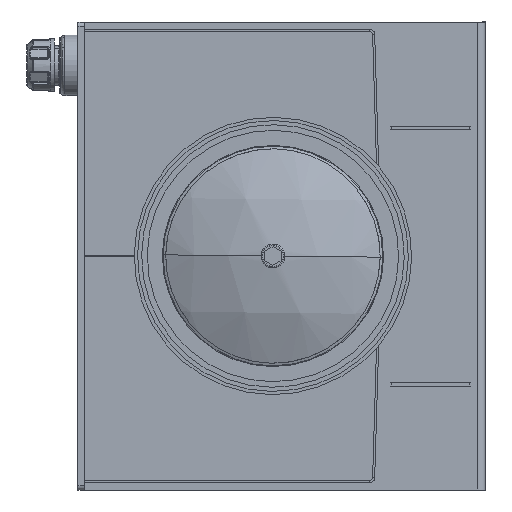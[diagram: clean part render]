
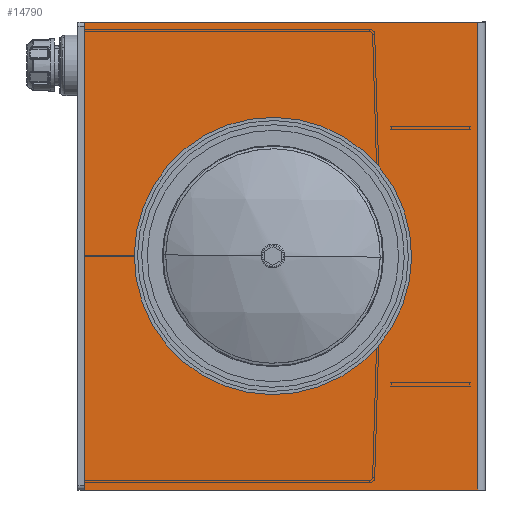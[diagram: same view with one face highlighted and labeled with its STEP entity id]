
A CAD part, left-side view. The second image highlights one B-rep face of the part: STEP entity #14790.
In plain terms, the highlighted planar face has unit normal (-1, 0, 0).
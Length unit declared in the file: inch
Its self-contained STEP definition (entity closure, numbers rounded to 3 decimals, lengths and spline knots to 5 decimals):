
#522 = VECTOR ( 'NONE', #15411, 39.37008 ) ;
#684 = ORIENTED_EDGE ( 'NONE', *, *, #8094, .T. ) ;
#832 = DIRECTION ( 'NONE',  ( 0., -1., 0. ) ) ;
#1183 = DIRECTION ( 'NONE',  ( 0., 0., 1. ) ) ;
#1264 = CARTESIAN_POINT ( 'NONE',  ( -33.31543, 7.95639, -11.07059 ) ) ;
#1648 = CARTESIAN_POINT ( 'NONE',  ( -33.31543, -2.92361, 8.55441 ) ) ;
#2305 = CARTESIAN_POINT ( 'NONE',  ( -33.31543, 7.95639, -11.07059 ) ) ;
#2429 = CARTESIAN_POINT ( 'NONE',  ( -33.31543, -14.74431, -11.07059 ) ) ;
#2713 = CARTESIAN_POINT ( 'NONE',  ( -33.31543, -15.17361, 15.92941 ) ) ;
#3427 = EDGE_LOOP ( 'NONE', ( #5857, #15629 ) ) ;
#4253 = CARTESIAN_POINT ( 'NONE',  ( -33.31543, -2.92361, 2.42941 ) ) ;
#4288 = CARTESIAN_POINT ( 'NONE',  ( -33.31543, -14.74431, 15.92941 ) ) ;
#4795 = ORIENTED_EDGE ( 'NONE', *, *, #8188, .T. ) ;
#4919 = LINE ( 'NONE', #1264, #12773 ) ;
#4961 = EDGE_LOOP ( 'NONE', ( #9846, #684, #4795, #18028 ) ) ;
#5080 = VERTEX_POINT ( 'NONE', #2429 ) ;
#5857 = ORIENTED_EDGE ( 'NONE', *, *, #8124, .F. ) ;
#5867 = DIRECTION ( 'NONE',  ( 0., 0., 1. ) ) ;
#5929 = VECTOR ( 'NONE', #13757, 39.37008 ) ;
#6155 = CARTESIAN_POINT ( 'NONE',  ( -33.31543, -14.74431, -11.07059 ) ) ;
#6220 = CARTESIAN_POINT ( 'NONE',  ( -33.31543, 7.95639, 15.92941 ) ) ;
#6309 = DIRECTION ( 'NONE',  ( 0., 0., -1. ) ) ;
#6461 = LINE ( 'NONE', #2713, #5929 ) ;
#6605 = VERTEX_POINT ( 'NONE', #2305 ) ;
#7028 = EDGE_CURVE ( 'NONE', #14151, #12868, #16943, .T. ) ;
#7955 = EDGE_CURVE ( 'NONE', #6605, #5080, #19995, .T. ) ;
#8088 = FACE_BOUND ( 'NONE', #3427, .T. ) ;
#8094 = EDGE_CURVE ( 'NONE', #19144, #16140, #6461, .T. ) ;
#8124 = EDGE_CURVE ( 'NONE', #12868, #14151, #13726, .T. ) ;
#8184 = EDGE_CURVE ( 'NONE', #5080, #19144, #9707, .T. ) ;
#8188 = EDGE_CURVE ( 'NONE', #16140, #6605, #4919, .T. ) ;
#8758 = CARTESIAN_POINT ( 'NONE',  ( -33.31543, -2.92361, -3.69559 ) ) ;
#8994 = CARTESIAN_POINT ( 'NONE',  ( -33.31543, -15.17361, -11.07059 ) ) ;
#9210 = CARTESIAN_POINT ( 'NONE',  ( -33.31543, 7.95639, -11.07059 ) ) ;
#9707 = LINE ( 'NONE', #6155, #522 ) ;
#9741 = AXIS2_PLACEMENT_3D ( 'NONE', #9210, #15547, #6309 ) ;
#9846 = ORIENTED_EDGE ( 'NONE', *, *, #8184, .T. ) ;
#10834 = DIRECTION ( 'NONE',  ( -1., 0., 0. ) ) ;
#12773 = VECTOR ( 'NONE', #19847, 39.37008 ) ;
#12868 = VERTEX_POINT ( 'NONE', #1648 ) ;
#13726 = CIRCLE ( 'NONE', #17957, 6.125 ) ;
#13757 = DIRECTION ( 'NONE',  ( 0., 1., 0. ) ) ;
#14026 = PLANE ( 'NONE',  #9741 ) ;
#14151 = VERTEX_POINT ( 'NONE', #8758 ) ;
#14790 = ADVANCED_FACE ( 'NONE', ( #8088, #15681 ), #14026, .F. ) ;
#15150 = DIRECTION ( 'NONE',  ( -1., 0., 0. ) ) ;
#15411 = DIRECTION ( 'NONE',  ( 0., 0., 1. ) ) ;
#15547 = DIRECTION ( 'NONE',  ( 1., 0., 0. ) ) ;
#15629 = ORIENTED_EDGE ( 'NONE', *, *, #7028, .F. ) ;
#15681 = FACE_OUTER_BOUND ( 'NONE', #4961, .T. ) ;
#16140 = VERTEX_POINT ( 'NONE', #6220 ) ;
#16943 = CIRCLE ( 'NONE', #19863, 6.125 ) ;
#17957 = AXIS2_PLACEMENT_3D ( 'NONE', #19780, #10834, #1183 ) ;
#18028 = ORIENTED_EDGE ( 'NONE', *, *, #7955, .T. ) ;
#19144 = VERTEX_POINT ( 'NONE', #4288 ) ;
#19519 = VECTOR ( 'NONE', #832, 39.37008 ) ;
#19780 = CARTESIAN_POINT ( 'NONE',  ( -33.31543, -2.92361, 2.42941 ) ) ;
#19847 = DIRECTION ( 'NONE',  ( 0., 0., -1. ) ) ;
#19863 = AXIS2_PLACEMENT_3D ( 'NONE', #4253, #15150, #5867 ) ;
#19995 = LINE ( 'NONE', #8994, #19519 ) ;
